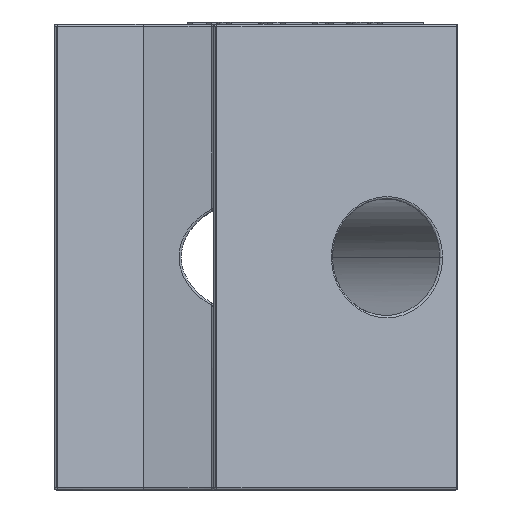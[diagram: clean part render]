
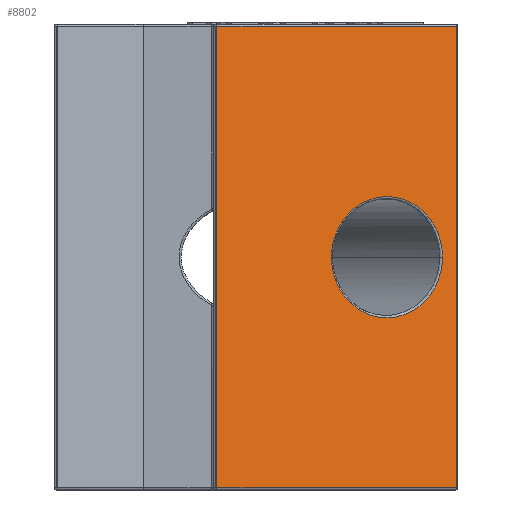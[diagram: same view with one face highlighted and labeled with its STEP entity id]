
A CAD part, left-side view. The second image highlights one B-rep face of the part: STEP entity #8802.
In plain terms, the highlighted planar face has unit normal (-0.886, -0.464, 0).
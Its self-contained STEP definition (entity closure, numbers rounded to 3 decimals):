
#226 = ORIENTED_EDGE ( 'NONE', *, *, #6514, .T. ) ;
#326 = CARTESIAN_POINT ( 'NONE',  ( -11.647, 5.435, 0. ) ) ;
#395 = CARTESIAN_POINT ( 'NONE',  ( -9.149, 0.666, 0. ) ) ;
#503 = CARTESIAN_POINT ( 'NONE',  ( -14.223, 10.354, 10. ) ) ;
#687 = CARTESIAN_POINT ( 'NONE',  ( -8.8, 0., 10. ) ) ;
#1447 = EDGE_LOOP ( 'NONE', ( #5419, #226 ) ) ;
#1469 = EDGE_CURVE ( 'NONE', #9776, #10690, #5926, .T. ) ;
#1510 = LINE ( 'NONE', #4886, #5664 ) ;
#1789 = DIRECTION ( 'NONE',  ( 0.464, -0.886, 0. ) ) ;
#2168 = CARTESIAN_POINT ( 'NONE',  ( -8.828, 0.054, 9.9 ) ) ;
#2404 = CARTESIAN_POINT ( 'NONE',  ( -11.647, 5.435, 0. ) ) ;
#2585 = CARTESIAN_POINT ( 'NONE',  ( -11.647, 5.435, 0. ) ) ;
#2731 = CARTESIAN_POINT ( 'NONE',  ( -8.828, 0.054, -9.9 ) ) ;
#3120 = CARTESIAN_POINT ( 'NONE',  ( -14.223, 10.354, 9.9 ) ) ;
#3315 = VECTOR ( 'NONE', #10449, 1000. ) ;
#3383 = VERTEX_POINT ( 'NONE', #3120 ) ;
#3421 = CARTESIAN_POINT ( 'NONE',  ( -9.149, 0.666, 0. ) ) ;
#3536 = VERTEX_POINT ( 'NONE', #2404 ) ;
#3693 = VERTEX_POINT ( 'NONE', #2168 ) ;
#3732 = CARTESIAN_POINT ( 'NONE',  ( -11.647, 5.435, 5.2 ) ) ;
#3916 = DIRECTION ( 'NONE',  ( 0., 0., -1. ) ) ;
#3970 = LINE ( 'NONE', #7187, #3315 ) ;
#4066 = EDGE_CURVE ( 'NONE', #3383, #9776, #7936, .T. ) ;
#4105 = DIRECTION ( 'NONE',  ( 0.886, 0.464, 0. ) ) ;
#4364 =( BOUNDED_CURVE ( )  B_SPLINE_CURVE ( 3, ( #326, #3732, #6961, #10225 ),
 .UNSPECIFIED., .F., .F. ) 
 B_SPLINE_CURVE_WITH_KNOTS ( ( 4, 4 ),
 ( 3.142, 6.283 ),
 .UNSPECIFIED. ) 
 CURVE ( )  GEOMETRIC_REPRESENTATION_ITEM ( )  RATIONAL_B_SPLINE_CURVE ( ( 1., 0.333, 0.333, 1. ) ) 
 REPRESENTATION_ITEM ( '' )  );
#4886 = CARTESIAN_POINT ( 'NONE',  ( -8.8, 0., 9.9 ) ) ;
#4892 = FACE_BOUND ( 'NONE', #1447, .T. ) ;
#4906 = AXIS2_PLACEMENT_3D ( 'NONE', #687, #4105, #7314 ) ;
#4971 = VECTOR ( 'NONE', #3916, 1000. ) ;
#5159 = EDGE_CURVE ( 'NONE', #3693, #3383, #1510, .T. ) ;
#5419 = ORIENTED_EDGE ( 'NONE', *, *, #9271, .T. ) ;
#5557 = ORIENTED_EDGE ( 'NONE', *, *, #5159, .T. ) ;
#5664 = VECTOR ( 'NONE', #8115, 1000. ) ;
#5926 = LINE ( 'NONE', #9205, #5966 ) ;
#5966 = VECTOR ( 'NONE', #1789, 1000. ) ;
#6422 = PLANE ( 'NONE',  #4906 ) ;
#6514 = EDGE_CURVE ( 'NONE', #3536, #9728, #4364, .T. ) ;
#6671 = CARTESIAN_POINT ( 'NONE',  ( -9.149, 0.666, -5.2 ) ) ;
#6849 = EDGE_CURVE ( 'NONE', #10690, #3693, #3970, .T. ) ;
#6961 = CARTESIAN_POINT ( 'NONE',  ( -9.149, 0.666, 5.2 ) ) ;
#6967 = ORIENTED_EDGE ( 'NONE', *, *, #1469, .T. ) ;
#7187 = CARTESIAN_POINT ( 'NONE',  ( -8.828, 0.054, 10. ) ) ;
#7314 = DIRECTION ( 'NONE',  ( -0.464, 0.886, 0. ) ) ;
#7444 = ORIENTED_EDGE ( 'NONE', *, *, #4066, .T. ) ;
#7874 = CARTESIAN_POINT ( 'NONE',  ( -14.223, 10.354, -9.9 ) ) ;
#7936 = LINE ( 'NONE', #503, #4971 ) ;
#8115 = DIRECTION ( 'NONE',  ( -0.464, 0.886, 0. ) ) ;
#8121 = FACE_OUTER_BOUND ( 'NONE', #10511, .T. ) ;
#8802 = ADVANCED_FACE ( 'NONE', ( #4892, #8121 ), #6422, .F. ) ;
#9071 =( BOUNDED_CURVE ( )  B_SPLINE_CURVE ( 3, ( #3421, #6671, #9950, #2585 ),
 .UNSPECIFIED., .F., .F. ) 
 B_SPLINE_CURVE_WITH_KNOTS ( ( 4, 4 ),
 ( 0., 3.142 ),
 .UNSPECIFIED. ) 
 CURVE ( )  GEOMETRIC_REPRESENTATION_ITEM ( )  RATIONAL_B_SPLINE_CURVE ( ( 1., 0.333, 0.333, 1. ) ) 
 REPRESENTATION_ITEM ( '' )  );
#9205 = CARTESIAN_POINT ( 'NONE',  ( -8.8, 0., -9.9 ) ) ;
#9271 = EDGE_CURVE ( 'NONE', #9728, #3536, #9071, .T. ) ;
#9728 = VERTEX_POINT ( 'NONE', #395 ) ;
#9776 = VERTEX_POINT ( 'NONE', #7874 ) ;
#9950 = CARTESIAN_POINT ( 'NONE',  ( -11.647, 5.435, -5.2 ) ) ;
#10008 = ORIENTED_EDGE ( 'NONE', *, *, #6849, .T. ) ;
#10225 = CARTESIAN_POINT ( 'NONE',  ( -9.149, 0.666, 0. ) ) ;
#10449 = DIRECTION ( 'NONE',  ( 0., 0., 1. ) ) ;
#10511 = EDGE_LOOP ( 'NONE', ( #10008, #5557, #7444, #6967 ) ) ;
#10690 = VERTEX_POINT ( 'NONE', #2731 ) ;
